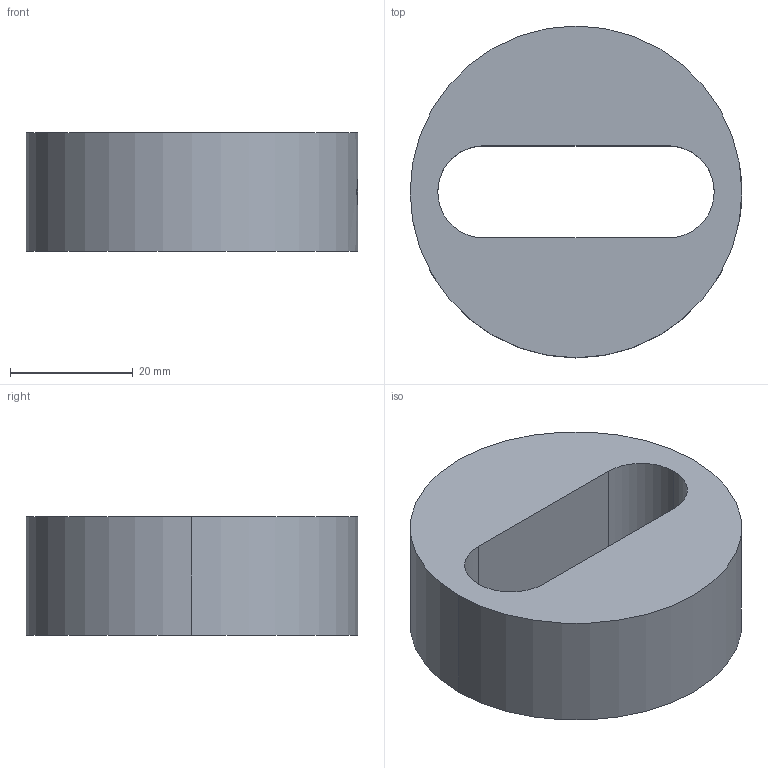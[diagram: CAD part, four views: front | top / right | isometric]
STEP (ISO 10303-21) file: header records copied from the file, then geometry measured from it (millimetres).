
FILE_DESCRIPTION (( 'STEP AP203' ), '1' );
FILE_NAME ('WJ-DM 63FK1.STEP', '2007-02-26T12:50:44', ( ' ' ), ( '' ), 'SwSTEP 2.0', 'SolidWorks 2005278', '' );
FILE_SCHEMA (( 'CONFIG_CONTROL_DESIGN' ));
Length unit declared in the file: millimetre
Products named in the file (1): WJ-DM 63FK1
Bounding box: 54 x 54 x 19.3 mm (x, y, z)
Volume: 30183.9 mm3; surface area: 8586.9 mm2
Topology: 1 solids, 1 shells, 49 faces, 134 edges, 88 vertices
Faces by surface type: plane 38, cylinder 9, cone 2
Entity records: 1659 total; most frequent: CARTESIAN_POINT 332, ORIENTED_EDGE 268, DIRECTION 256, EDGE_CURVE 134, AXIS2_PLACEMENT_3D 92, VERTEX_POINT 88, VECTOR 72, LINE 72
